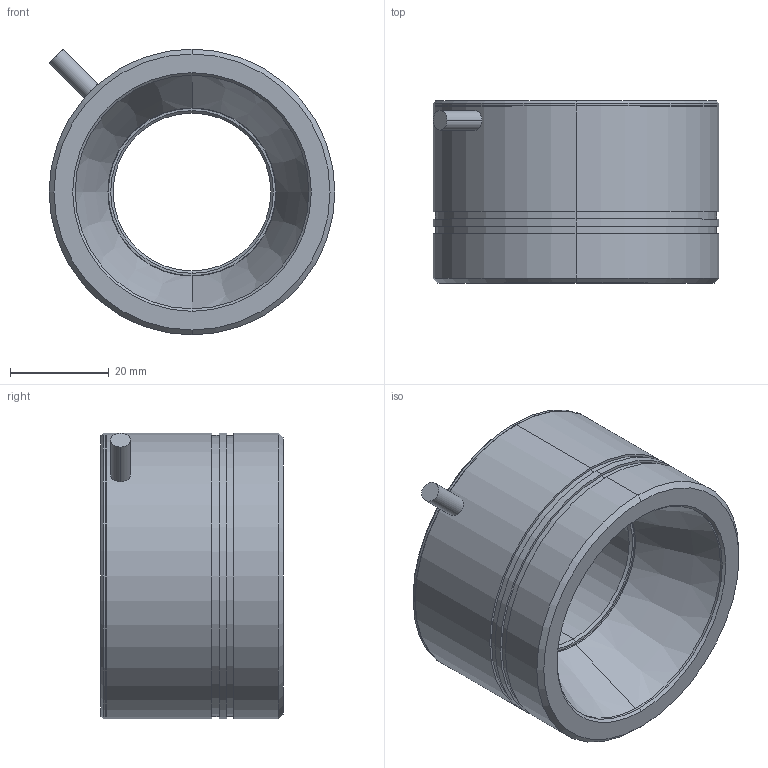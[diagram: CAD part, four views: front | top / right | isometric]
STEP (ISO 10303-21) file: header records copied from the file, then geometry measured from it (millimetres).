
FILE_DESCRIPTION (( 'STEP AP203' ), '1' );
FILE_NAME ('RIF58-W.STEP', '2021-10-21T08:01:59', ( 'Windows 蚚誧' ), ( 'Microsoft' ), 'SwSTEP 2.0', 'SolidWorks 2016', '' );
FILE_SCHEMA (( 'CONFIG_CONTROL_DESIGN' ));
Length unit declared in the file: millimetre
Products named in the file (1): RIF58-W
Bounding box: 58 x 37 x 58 mm (x, y, z)
Volume: 42387.7 mm3; surface area: 34681.2 mm2
Topology: 5 solids, 5 shells, 97 faces, 208 edges, 130 vertices
Faces by surface type: cylinder 52, plane 23, cone 20, torus 2
Entity records: 2723 total; most frequent: DIRECTION 524, CARTESIAN_POINT 428, ORIENTED_EDGE 400, AXIS2_PLACEMENT_3D 226, EDGE_CURVE 200, VERTEX_POINT 130, EDGE_LOOP 130, CIRCLE 128
